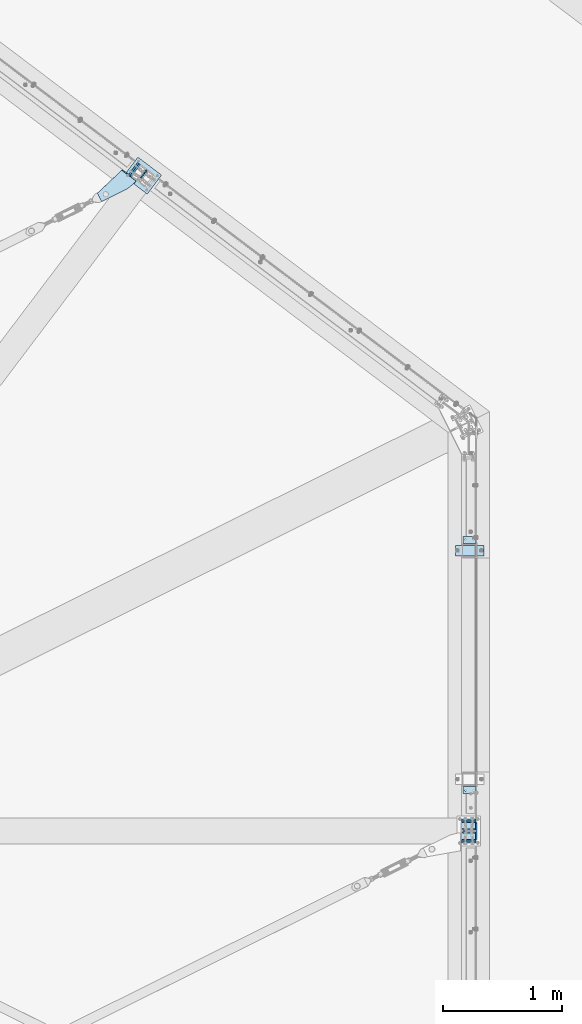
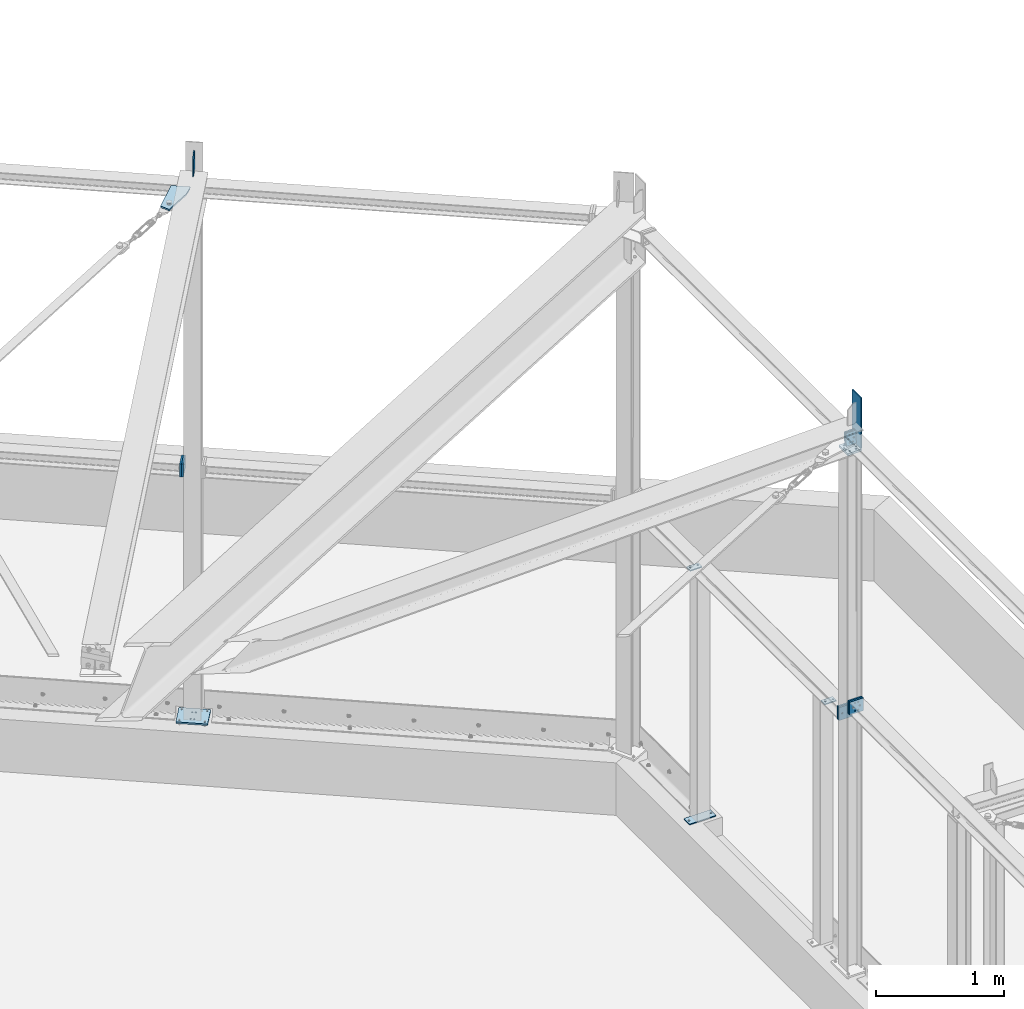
# One storey, part 65 of 476: 16 plates, 63 openings.
"""IFC2X3 building model written with IfcOpenShell, lengths in millimetres."""

from ifc_helpers import new_model, entity, si_unit, converted_unit, point, frame, frame_2d, origin, origin_with_axes, origin_2d_with_axis, place, context, project, spatial, polyline, circle_curve, line_curve, trimmed, segment, composite_curve, circle, outline, extrude, material, layer, layer_set, element, save


model = new_model("IFC2X3")

# Units and contexts
model_context = context("Model", 3, precision=1e-09, world=origin_with_axes())
ifc_project = project(units=[si_unit("LENGTHUNIT", "METRE", prefix="MILLI"), si_unit("AREAUNIT", "SQUARE_METRE"), si_unit("VOLUMEUNIT", "CUBIC_METRE"), converted_unit("PLANEANGLEUNIT", "DEGREE", entity("IfcPlaneAngleMeasure", 0.01745329), si_unit("PLANEANGLEUNIT", "RADIAN"), dimensions=[0, 0, 0, 0, 0, 0, 0])], contexts=[model_context])

# Site, building, storey
site_placement = place(None, origin_with_axes())
site = spatial("IfcSite", under=ifc_project, at=site_placement, Name="mKR Teilneubau & Sanierung BA1 - Ostfildern", CompositionType="ELEMENT")
building_placement = place(site_placement, origin_with_axes())
building = spatial("IfcBuilding", under=site, at=building_placement, Name="Struktur 1", CompositionType="ELEMENT")
storey_placement = place(building_placement, origin_with_axes())
storey = spatial("IfcBuildingStorey", under=building, at=storey_placement, Name="Default Storey", CompositionType="ELEMENT", Elevation=0.0)

# Plate, openings
ifc_material = material(Name="S235JR")
ifc_layer_1 = layer(ifc_material, 15.0)
ifc_layer_set_1 = layer_set([ifc_layer_1], Name="S235JR")
plate_1_placement = place(None, frame((19174.930539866, 2952.502361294, 5627.057962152), z_axis=(0.018098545, 0.02396011, -0.999549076), x_axis=(-0.602462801, -0.797581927, -0.030027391)))
plate_1 = element("IfcPlate", 1, at=plate_1_placement, inside=storey, material=ifc_layer_set_1, Name="-", ObjectType="-", context=model_context, shape_type="SweptSolid", body=[
    extrude(outline(polyline([(0.0, 0.0), (65.954896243, 0.0), (321.261469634, 127.050274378), (285.61998654, 198.672036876), (1.572e-05, 149.999963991), (0.0, 0.0)])), origin_with_axes(), (0.0, 0.0, 1.0), 15.0),
])
opening_1_placement = place(plate_1_placement, frame((0.0, 0.0, -0.01), z_axis=(0.0, 0.0, 1.0), x_axis=(1.0, 0.0, 0.0)))
element("IfcOpeningElement", 2, at=opening_1_placement, cuts=plate_1, ObjectType="Opening", context=model_context, shape_type="SweptSolid", body=[
    extrude(outline(composite_curve([segment(trimmed(line_curve((65.954896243, 0.0), (0.895271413, 0.445521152), 41.13722238), [point((65.954896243, 0.0))], [point((102.783875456, 18.327502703))], True, "CARTESIAN"), True, "CONTINUOUS"), segment(trimmed(circle_curve(frame_2d((24.817673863, 175.0), x_axis=(-1.0, 0.0)), 175.0), [point((102.783875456, 18.327502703))], [point((24.817673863, 0.0))], False, "CARTESIAN"), True, "CONTINUOUS"), segment(trimmed(line_curve((24.817673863, 0.0), (1.0, 0.0), 41.13722238), [point((24.817673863, 0.0))], [point((65.954896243, 0.0))], True, "CARTESIAN"), True, "CONTINUOUS")], self_intersect=False)), origin(), (0.0, 0.0, 1.0), 15.02),
])
opening_2_placement = place(plate_1_placement, frame((1.5863e-05, 151.364232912, 0.0), z_axis=(-1.05e-07, -1.0, 0.0), x_axis=(1.0, -1.05e-07, 0.0)))
element("IfcOpeningElement", 3, at=opening_2_placement, cuts=plate_1, ObjectType="Opening", context=model_context, shape_type="SweptSolid", body=[
    extrude(outline(polyline([(0.0, 0.0), (8.0, 0.0), (0.0, 8.0), (0.0, 0.0)])), origin(), (0.0, 0.0, 1.0), 151.385232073),
])
opening_3_placement = place(plate_1_placement, frame((249.724542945, 136.129920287, 15.499832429), z_axis=(-1.1668e-05, -5.806e-06, -1.0), x_axis=(0.89527149, 0.445520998, -1.3033e-05)))
element("IfcOpeningElement", 4, at=opening_3_placement, cuts=plate_1, ObjectType="Opening", context=model_context, shape_type="SweptSolid", body=[
    extrude(circle(Radius=14.501, at=origin_2d_with_axis()), origin(), (0.0, 0.0, 1.0), 16.000000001),
])

ifc_layer_2 = layer(ifc_material, 10.0)
ifc_layer_set_2 = layer_set([ifc_layer_2], Name="S235JR")
plate_2_placement = place(None, frame((19214.301719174, 2970.611345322, 5888.279672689), z_axis=(-0.797941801, 0.602734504, 0.0), x_axis=(0.602734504, 0.797941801, 0.0)))
plate_2 = element("IfcPlate", 5, at=plate_2_placement, inside=storey, material=ifc_layer_set_2, Name="-", ObjectType="-", context=model_context, shape_type="SweptSolid", body=[
    extrude(outline(polyline([(0.0, 0.0), (80.0, 0.0), (80.0, 197.595559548), (0.0, 200.0), (0.0, 0.0)])), origin_with_axes(), (0.0, 0.0, 1.0), 10.0),
])
opening_4_placement = place(plate_2_placement, frame((0.0, 0.0, -0.01), z_axis=(0.0, 0.0, 1.0), x_axis=(1.0, 0.0, 0.0)))
element("IfcOpeningElement", 6, at=opening_4_placement, cuts=plate_2, ObjectType="Opening", context=model_context, shape_type="SweptSolid", body=[
    extrude(outline(polyline([(0.0, 0.0), (50.0, 0.0), (0.0, 50.0), (0.0, 0.0)])), origin(), (0.0, 0.0, 1.0), 10.02),
])
opening_5_placement = place(plate_2_placement, frame((0.0, 0.0, -0.01), z_axis=(0.0, 0.0, 1.0), x_axis=(1.0, 0.0, 0.0)))
element("IfcOpeningElement", 7, at=opening_5_placement, cuts=plate_2, ObjectType="Opening", context=model_context, shape_type="SweptSolid", body=[
    extrude(outline(polyline([(80.0, 197.595559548), (60.009027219, 198.196398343), (80.0, 177.595559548), (80.0, 197.595559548)])), origin(), (0.0, 0.0, 1.0), 10.02),
])

plate_3_placement = place(None, frame((21916.108734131, -19.102759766, 2855.0), z_axis=(0.0, 0.0, 1.0), x_axis=(0.0, -1.0, 0.0)))
plate_3 = element("IfcPlate", 8, at=plate_3_placement, inside=storey, material=ifc_layer_set_2, Name="Endplate", ObjectType="Endplate", context=model_context, shape_type="SweptSolid", body=[
    extrude(outline(polyline([(20.0, 2.5), (80.0, 2.5), (80.0, 109.5), (20.0, 109.5), (20.0, 2.5)])), origin_with_axes(), (0.0, 0.0, -1.0), 10.0),
])
opening_6_placement = place(plate_3_placement, frame((38.499, 21.0, -10.5), z_axis=(0.0, 0.0, -1.0), x_axis=(-1.0, 0.0, 0.0)))
element("IfcOpeningElement", 9, at=opening_6_placement, cuts=plate_3, ObjectType="Opening", context=model_context, shape_type="SweptSolid", body=[
    extrude(circle(Radius=6.501, at=frame_2d((-6.501, 0.0), x_axis=(1.0, 0.0))), origin(), (0.0, 0.0, -1.0), 11.0),
])
opening_7_placement = place(plate_3_placement, frame((38.499, 91.0, -10.5), z_axis=(0.0, 0.0, -1.0), x_axis=(-1.0, 0.0, 0.0)))
element("IfcOpeningElement", 10, at=opening_7_placement, cuts=plate_3, ObjectType="Opening", context=model_context, shape_type="SweptSolid", body=[
    extrude(circle(Radius=6.501, at=frame_2d((-6.501, 0.0), x_axis=(1.0, 0.0))), origin(), (0.0, 0.0, -1.0), 11.0),
])

plate_4_placement = place(None, frame((19185.00758697, 3147.513425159, 540.0), z_axis=(0.0, 0.0, -1.0), x_axis=(0.797941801, -0.602734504, 0.0)))
plate_4 = element("IfcPlate", 11, at=plate_4_placement, inside=storey, material=ifc_layer_set_1, Name="Baseplate", ObjectType="Baseplate", context=model_context, shape_type="SweptSolid", body=[
    extrude(outline(polyline([(0.0, 0.0), (250.0, 0.0), (250.0, 200.0), (0.0, 200.0), (0.0, 0.0)])), origin_with_axes(), (0.0, 0.0, 1.0), 15.0),
])
opening_8_placement = place(plate_4_placement, frame((139.75, 146.0, 15.5), z_axis=(0.0, 0.0, -1.0), x_axis=(0.0, 1.0, 0.0)))
element("IfcOpeningElement", 12, at=opening_8_placement, cuts=plate_4, ObjectType="Opening", context=model_context, shape_type="SweptSolid", body=[
    extrude(circle(Radius=6.001, at=origin_2d_with_axis()), origin(), (0.0, 0.0, 1.0), 16.0),
])
opening_9_placement = place(plate_4_placement, frame((139.75, 54.0, 15.5), z_axis=(0.0, 0.0, -1.0), x_axis=(0.0, 1.0, 0.0)))
element("IfcOpeningElement", 13, at=opening_9_placement, cuts=plate_4, ObjectType="Opening", context=model_context, shape_type="SweptSolid", body=[
    extrude(circle(Radius=6.001, at=origin_2d_with_axis()), origin(), (0.0, 0.0, 1.0), 16.0),
])
opening_10_placement = place(plate_4_placement, frame((110.25, 54.0, 15.5), z_axis=(0.0, 0.0, -1.0), x_axis=(0.0, 1.0, 0.0)))
element("IfcOpeningElement", 14, at=opening_10_placement, cuts=plate_4, ObjectType="Opening", context=model_context, shape_type="SweptSolid", body=[
    extrude(circle(Radius=6.001, at=origin_2d_with_axis()), origin(), (0.0, 0.0, 1.0), 16.0),
])
opening_11_placement = place(plate_4_placement, frame((110.25, 146.0, 15.5), z_axis=(0.0, 0.0, -1.0), x_axis=(0.0, 1.0, 0.0)))
element("IfcOpeningElement", 15, at=opening_11_placement, cuts=plate_4, ObjectType="Opening", context=model_context, shape_type="SweptSolid", body=[
    extrude(circle(Radius=6.001, at=origin_2d_with_axis()), origin(), (0.0, 0.0, 1.0), 16.0),
])
opening_12_placement = place(plate_4_placement, frame((125.0, 100.0, 15.5), z_axis=(0.0, 0.0, -1.0), x_axis=(1.0, 0.0, 0.0)))
element("IfcOpeningElement", 16, at=opening_12_placement, cuts=plate_4, ObjectType="Opening", context=model_context, shape_type="SweptSolid", body=[
    extrude(circle(Radius=6.001, at=frame_2d((100.0, 75.0), x_axis=(1.0, 0.0))), origin(), (0.0, 0.0, 1.0), 16.0),
])
opening_13_placement = place(plate_4_placement, frame((125.0, 100.0, 15.5), z_axis=(0.0, 0.0, -1.0), x_axis=(1.0, 0.0, 0.0)))
element("IfcOpeningElement", 17, at=opening_13_placement, cuts=plate_4, ObjectType="Opening", context=model_context, shape_type="SweptSolid", body=[
    extrude(circle(Radius=6.001, at=frame_2d((-100.0, 75.0), x_axis=(1.0, 0.0))), origin(), (0.0, 0.0, 1.0), 16.0),
])
opening_14_placement = place(plate_4_placement, frame((125.0, 100.0, 15.5), z_axis=(0.0, 0.0, -1.0), x_axis=(1.0, 0.0, 0.0)))
element("IfcOpeningElement", 18, at=opening_14_placement, cuts=plate_4, ObjectType="Opening", context=model_context, shape_type="SweptSolid", body=[
    extrude(circle(Radius=6.001, at=frame_2d((100.0, -75.0), x_axis=(1.0, 0.0))), origin(), (0.0, 0.0, 1.0), 16.0),
])
opening_15_placement = place(plate_4_placement, frame((125.0, 100.0, 15.5), z_axis=(0.0, 0.0, -1.0), x_axis=(1.0, 0.0, 0.0)))
element("IfcOpeningElement", 19, at=opening_15_placement, cuts=plate_4, ObjectType="Opening", context=model_context, shape_type="SweptSolid", body=[
    extrude(circle(Radius=6.001, at=frame_2d((-100.0, -75.0), x_axis=(1.0, 0.0))), origin(), (0.0, 0.0, 1.0), 16.0),
])

plate_5_placement = place(None, frame((22092.108734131, -114.102759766, 525.0), z_axis=(0.0, 0.0, -1.0), x_axis=(0.0, -1.0, 0.0)))
plate_5 = element("IfcPlate", 20, at=plate_5_placement, inside=storey, material=ifc_layer_set_2, Name="Baseplate", ObjectType="Baseplate", context=model_context, shape_type="SweptSolid", body=[
    extrude(outline(polyline([(0.0, 0.0), (90.0, 0.0), (90.0, 240.0), (0.0, 240.0), (0.0, 0.0)])), origin_with_axes(), (0.0, 0.0, 1.0), 10.0),
])
opening_16_placement = place(plate_5_placement, frame((45.0, 120.0, 10.5), z_axis=(0.0, 0.0, -1.0), x_axis=(1.0, 0.0, 0.0)))
element("IfcOpeningElement", 21, at=opening_16_placement, cuts=plate_5, ObjectType="Opening", context=model_context, shape_type="SweptSolid", body=[
    extrude(circle(Radius=7.001, at=frame_2d((0.0, 100.0), x_axis=(1.0, 0.0))), origin(), (0.0, 0.0, 1.0), 11.0),
])
opening_17_placement = place(plate_5_placement, frame((45.0, 120.0, 10.5), z_axis=(0.0, 0.0, -1.0), x_axis=(1.0, 0.0, 0.0)))
element("IfcOpeningElement", 22, at=opening_17_placement, cuts=plate_5, ObjectType="Opening", context=model_context, shape_type="SweptSolid", body=[
    extrude(circle(Radius=7.001, at=frame_2d((0.0, -100.0), x_axis=(1.0, 0.0))), origin(), (0.0, 0.0, 1.0), 11.0),
])

plate_6_placement = place(None, frame((19144.681831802, 3052.649757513, 2912.000000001), z_axis=(0.797941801, -0.602734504, 0.0), x_axis=(0.0, 0.0, -1.0)))
plate_6 = element("IfcPlate", 23, at=plate_6_placement, inside=storey, material=ifc_layer_set_1, Name="Endplate#1", ObjectType="Endplate#1", context=model_context, shape_type="SweptSolid", body=[
    extrude(outline(polyline([(-62.0, -62.0), (62.0, -62.0), (62.0, 62.0), (-62.0, 62.0), (-62.0, -62.0)])), origin_with_axes(), (0.0, 0.0, 1.0), 15.0),
])
opening_18_placement = place(plate_6_placement, frame((37.0, -14.5, 15.5), z_axis=(0.0, 0.0, -1.0), x_axis=(1.0, 0.0, 0.0)))
element("IfcOpeningElement", 24, at=opening_18_placement, cuts=plate_6, ObjectType="Opening", context=model_context, shape_type="SweptSolid", body=[
    extrude(circle(Radius=6.001, at=origin_2d_with_axis()), origin(), (0.0, 0.0, 1.0), 16.0),
])
opening_19_placement = place(plate_6_placement, frame((-37.0, -14.5, 15.5), z_axis=(0.0, 0.0, -1.0), x_axis=(1.0, 0.0, 0.0)))
element("IfcOpeningElement", 25, at=opening_19_placement, cuts=plate_6, ObjectType="Opening", context=model_context, shape_type="SweptSolid", body=[
    extrude(circle(Radius=6.001, at=origin_2d_with_axis()), origin(), (0.0, 0.0, 1.0), 16.0),
])
opening_20_placement = place(plate_6_placement, frame((-37.0, 14.5, 15.5), z_axis=(0.0, 0.0, -1.0), x_axis=(1.0, 0.0, 0.0)))
element("IfcOpeningElement", 26, at=opening_20_placement, cuts=plate_6, ObjectType="Opening", context=model_context, shape_type="SweptSolid", body=[
    extrude(circle(Radius=6.001, at=origin_2d_with_axis()), origin(), (0.0, 0.0, 1.0), 16.0),
])
opening_21_placement = place(plate_6_placement, frame((37.0, 14.5, 15.5), z_axis=(0.0, 0.0, -1.0), x_axis=(1.0, 0.0, 0.0)))
element("IfcOpeningElement", 27, at=opening_21_placement, cuts=plate_6, ObjectType="Opening", context=model_context, shape_type="SweptSolid", body=[
    extrude(circle(Radius=6.001, at=origin_2d_with_axis()), origin(), (0.0, 0.0, 1.0), 16.0),
])
opening_22_placement = place(plate_6_placement, frame((0.0, -30.0, 15.5), z_axis=(0.0, 0.0, -1.0), x_axis=(0.0, -1.0, 0.0)))
element("IfcOpeningElement", 28, at=opening_22_placement, cuts=plate_6, ObjectType="Opening", context=model_context, shape_type="SweptSolid", body=[
    extrude(circle(Radius=7.001, at=origin_2d_with_axis()), origin(), (0.0, 0.0, 1.0), 16.0),
])
opening_23_placement = place(plate_6_placement, frame((0.0, 30.0, 15.5), z_axis=(0.0, 0.0, -1.0), x_axis=(-1.0, 0.0, 0.0)))
element("IfcOpeningElement", 29, at=opening_23_placement, cuts=plate_6, ObjectType="Opening", context=model_context, shape_type="SweptSolid", body=[
    extrude(circle(Radius=7.001, at=origin_2d_with_axis()), origin(), (0.0, 0.0, 1.0), 16.0),
])

plate_7_placement = place(None, frame((19168.62093558, 3034.568847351, 2912.000000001), z_axis=(-0.797941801, 0.602734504, 0.0), x_axis=(0.602734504, 0.797941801, 0.0)))
plate_7 = element("IfcPlate", 30, at=plate_7_placement, inside=storey, material=ifc_layer_set_1, Name="T-plate", ObjectType="T-plate", context=model_context, shape_type="SweptSolid", body=[
    extrude(outline(polyline([(-62.0, -62.0), (62.0, -62.0), (62.0, 62.0), (-62.0, 62.0), (-62.0, -62.0)])), origin_with_axes(), (0.0, 0.0, 1.0), 15.0),
])
opening_24_placement = place(plate_7_placement, frame((-30.001409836, 0.0, -0.5), z_axis=(0.0, 0.0, 1.0), x_axis=(-1.0, 0.0, 0.0)))
element("IfcOpeningElement", 31, at=opening_24_placement, cuts=plate_7, ObjectType="Opening", context=model_context, shape_type="SweptSolid", body=[
    extrude(circle(Radius=7.001, at=origin_2d_with_axis()), origin(), (0.0, 0.0, 1.0), 16.0),
])
opening_25_placement = place(plate_7_placement, frame((29.998590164, 0.0, -0.5), z_axis=(0.0, 0.0, 1.0), x_axis=(0.0, -1.0, 0.0)))
element("IfcOpeningElement", 32, at=opening_25_placement, cuts=plate_7, ObjectType="Opening", context=model_context, shape_type="SweptSolid", body=[
    extrude(circle(Radius=7.001, at=origin_2d_with_axis()), origin(), (0.0, 0.0, 1.0), 16.0),
])

plate_8_placement = place(None, frame((21965.608780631, -2413.420954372, 2912.000017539), z_axis=(0.0, -1.0, 0.0), x_axis=(0.0, 0.0, -1.0)))
plate_8 = element("IfcPlate", 33, at=plate_8_placement, inside=storey, material=ifc_layer_set_1, Name="Endplate#1", ObjectType="Endplate#1", context=model_context, shape_type="SweptSolid", body=[
    extrude(outline(polyline([(-62.0, -62.0), (62.0, -62.0), (62.0, 62.0), (-62.0, 62.0), (-62.0, -62.0)])), origin_with_axes(), (0.0, 0.0, 1.0), 15.0),
])
opening_26_placement = place(plate_8_placement, frame((37.0, -14.5, 15.5), z_axis=(0.0, 0.0, -1.0), x_axis=(1.0, 0.0, 0.0)))
element("IfcOpeningElement", 34, at=opening_26_placement, cuts=plate_8, ObjectType="Opening", context=model_context, shape_type="SweptSolid", body=[
    extrude(circle(Radius=6.001, at=origin_2d_with_axis()), origin(), (0.0, 0.0, 1.0), 16.0),
])
opening_27_placement = place(plate_8_placement, frame((-37.0, -14.5, 15.5), z_axis=(0.0, 0.0, -1.0), x_axis=(1.0, 0.0, 0.0)))
element("IfcOpeningElement", 35, at=opening_27_placement, cuts=plate_8, ObjectType="Opening", context=model_context, shape_type="SweptSolid", body=[
    extrude(circle(Radius=6.001, at=origin_2d_with_axis()), origin(), (0.0, 0.0, 1.0), 16.0),
])
opening_28_placement = place(plate_8_placement, frame((-37.0, 14.5, 15.5), z_axis=(0.0, 0.0, -1.0), x_axis=(1.0, 0.0, 0.0)))
element("IfcOpeningElement", 36, at=opening_28_placement, cuts=plate_8, ObjectType="Opening", context=model_context, shape_type="SweptSolid", body=[
    extrude(circle(Radius=6.001, at=origin_2d_with_axis()), origin(), (0.0, 0.0, 1.0), 16.0),
])
opening_29_placement = place(plate_8_placement, frame((37.0, 14.5, 15.5), z_axis=(0.0, 0.0, -1.0), x_axis=(1.0, 0.0, 0.0)))
element("IfcOpeningElement", 37, at=opening_29_placement, cuts=plate_8, ObjectType="Opening", context=model_context, shape_type="SweptSolid", body=[
    extrude(circle(Radius=6.001, at=origin_2d_with_axis()), origin(), (0.0, 0.0, 1.0), 16.0),
])
opening_30_placement = place(plate_8_placement, frame((0.0, 30.0, 15.5), z_axis=(0.0, 0.0, -1.0), x_axis=(-1.0, 0.0, 0.0)))
element("IfcOpeningElement", 38, at=opening_30_placement, cuts=plate_8, ObjectType="Opening", context=model_context, shape_type="SweptSolid", body=[
    extrude(circle(Radius=7.001, at=origin_2d_with_axis()), origin(), (0.0, 0.0, 1.0), 16.0),
])
opening_31_placement = place(plate_8_placement, frame((0.0, -30.0, 15.5), z_axis=(0.0, 0.0, -1.0), x_axis=(0.0, -1.0, 0.0)))
element("IfcOpeningElement", 39, at=opening_31_placement, cuts=plate_8, ObjectType="Opening", context=model_context, shape_type="SweptSolid", body=[
    extrude(circle(Radius=7.001, at=origin_2d_with_axis()), origin(), (0.0, 0.0, 1.0), 16.0),
])

plate_9_placement = place(None, frame((21965.608764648, -2443.420954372, 2912.000017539), z_axis=(0.0, 1.0, 0.0), x_axis=(1.0, 0.0, 0.0)))
plate_9 = element("IfcPlate", 40, at=plate_9_placement, inside=storey, material=ifc_layer_set_1, Name="T-plate", ObjectType="T-plate", context=model_context, shape_type="SweptSolid", body=[
    extrude(outline(polyline([(-62.0, -62.0), (62.0, -62.0), (62.0, 62.0), (-62.0, 62.0), (-62.0, -62.0)])), origin_with_axes(), (0.0, 0.0, 1.0), 15.0),
])
opening_32_placement = place(plate_9_placement, frame((-29.999984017, 0.0, -0.5), z_axis=(0.0, 0.0, 1.0), x_axis=(-1.0, 0.0, 0.0)))
element("IfcOpeningElement", 41, at=opening_32_placement, cuts=plate_9, ObjectType="Opening", context=model_context, shape_type="SweptSolid", body=[
    extrude(circle(Radius=7.001, at=origin_2d_with_axis()), origin(), (0.0, 0.0, 1.0), 16.0),
])
opening_33_placement = place(plate_9_placement, frame((30.000015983, 0.0, -0.5), z_axis=(0.0, 0.0, 1.0), x_axis=(0.0, -1.0, 0.0)))
element("IfcOpeningElement", 42, at=opening_33_placement, cuts=plate_9, ObjectType="Opening", context=model_context, shape_type="SweptSolid", body=[
    extrude(circle(Radius=7.001, at=origin_2d_with_axis()), origin(), (0.0, 0.0, 1.0), 16.0),
])

plate_10_placement = place(None, frame((21965.608780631, -2613.420954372, 3068.000017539), z_axis=(0.0, 1.0, 0.0), x_axis=(0.0, 0.0, -1.0)))
plate_10 = element("IfcPlate", 43, at=plate_10_placement, inside=storey, material=ifc_layer_set_1, Name="Endplate#1", ObjectType="Endplate#1", context=model_context, shape_type="SweptSolid", body=[
    extrude(outline(polyline([(-62.0, -62.0), (62.0, -62.0), (62.0, 62.0), (-62.0, 62.0), (-62.0, -62.0)])), origin_with_axes(), (0.0, 0.0, 1.0), 15.0),
])
opening_34_placement = place(plate_10_placement, frame((37.0, 14.5, 15.5), z_axis=(0.0, 0.0, -1.0), x_axis=(-1.0, 0.0, 0.0)))
element("IfcOpeningElement", 44, at=opening_34_placement, cuts=plate_10, ObjectType="Opening", context=model_context, shape_type="SweptSolid", body=[
    extrude(circle(Radius=6.001, at=origin_2d_with_axis()), origin(), (0.0, 0.0, 1.0), 16.0),
])
opening_35_placement = place(plate_10_placement, frame((-37.0, 14.5, 15.5), z_axis=(0.0, 0.0, -1.0), x_axis=(-1.0, 0.0, 0.0)))
element("IfcOpeningElement", 45, at=opening_35_placement, cuts=plate_10, ObjectType="Opening", context=model_context, shape_type="SweptSolid", body=[
    extrude(circle(Radius=6.001, at=origin_2d_with_axis()), origin(), (0.0, 0.0, 1.0), 16.0),
])
opening_36_placement = place(plate_10_placement, frame((-37.0, -14.5, 15.5), z_axis=(0.0, 0.0, -1.0), x_axis=(-1.0, 0.0, 0.0)))
element("IfcOpeningElement", 46, at=opening_36_placement, cuts=plate_10, ObjectType="Opening", context=model_context, shape_type="SweptSolid", body=[
    extrude(circle(Radius=6.001, at=origin_2d_with_axis()), origin(), (0.0, 0.0, 1.0), 16.0),
])
opening_37_placement = place(plate_10_placement, frame((37.0, -14.5, 15.5), z_axis=(0.0, 0.0, -1.0), x_axis=(-1.0, 0.0, 0.0)))
element("IfcOpeningElement", 47, at=opening_37_placement, cuts=plate_10, ObjectType="Opening", context=model_context, shape_type="SweptSolid", body=[
    extrude(circle(Radius=6.001, at=origin_2d_with_axis()), origin(), (0.0, 0.0, 1.0), 16.0),
])
opening_38_placement = place(plate_10_placement, frame((0.0, 30.0, 15.5), z_axis=(0.0, 0.0, -1.0), x_axis=(-1.0, 0.0, 0.0)))
element("IfcOpeningElement", 48, at=opening_38_placement, cuts=plate_10, ObjectType="Opening", context=model_context, shape_type="SweptSolid", body=[
    extrude(circle(Radius=7.001, at=origin_2d_with_axis()), origin(), (0.0, 0.0, 1.0), 16.0),
])
opening_39_placement = place(plate_10_placement, frame((0.0, -30.0, 15.5), z_axis=(0.0, 0.0, -1.0), x_axis=(0.0, -1.0, 0.0)))
element("IfcOpeningElement", 49, at=opening_39_placement, cuts=plate_10, ObjectType="Opening", context=model_context, shape_type="SweptSolid", body=[
    extrude(circle(Radius=7.001, at=origin_2d_with_axis()), origin(), (0.0, 0.0, 1.0), 16.0),
])

plate_11_placement = place(None, frame((21965.608764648, -2583.420954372, 3068.000017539), z_axis=(0.0, -1.0, 0.0), x_axis=(-1.0, 0.0, 0.0)))
plate_11 = element("IfcPlate", 50, at=plate_11_placement, inside=storey, material=ifc_layer_set_1, Name="T-plate", ObjectType="T-plate", context=model_context, shape_type="SweptSolid", body=[
    extrude(outline(polyline([(-62.0, -62.0), (62.0, -62.0), (62.0, 62.0), (-62.0, 62.0), (-62.0, -62.0)])), origin_with_axes(), (0.0, 0.0, 1.0), 15.0),
])
opening_40_placement = place(plate_11_placement, frame((29.999984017, 0.0, -0.5), z_axis=(0.0, 0.0, 1.0), x_axis=(0.0, -1.0, 0.0)))
element("IfcOpeningElement", 51, at=opening_40_placement, cuts=plate_11, ObjectType="Opening", context=model_context, shape_type="SweptSolid", body=[
    extrude(circle(Radius=7.001, at=origin_2d_with_axis()), origin(), (0.0, 0.0, 1.0), 16.0),
])
opening_41_placement = place(plate_11_placement, frame((-30.000015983, 0.0, -0.5), z_axis=(0.0, 0.0, 1.0), x_axis=(-1.0, 0.0, 0.0)))
element("IfcOpeningElement", 52, at=opening_41_placement, cuts=plate_11, ObjectType="Opening", context=model_context, shape_type="SweptSolid", body=[
    extrude(circle(Radius=7.001, at=origin_2d_with_axis()), origin(), (0.0, 0.0, 1.0), 16.0),
])

ifc_layer_3 = layer(ifc_material, 12.0)
ifc_layer_set_3 = layer_set([ifc_layer_3], Name="S235JR")
plate_12_placement = place(None, frame((22008.725869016, -2516.920954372, 5635.31111627), z_axis=(0.0, -1.0, 0.0), x_axis=(-0.999548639, 0.0, -0.030041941)))
plate_12 = element("IfcPlate", 53, at=plate_12_placement, inside=storey, material=ifc_layer_set_3, Name="Endplate", ObjectType="Endplate", context=model_context, shape_type="SweptSolid", body=[
    extrude(outline(polyline([(0.0, 0.0), (90.0, 0.0), (90.0, 124.0), (0.0, 124.0), (0.0, 0.0)])), origin_with_axes(), (0.0, 0.0, 1.0), 12.0),
])
opening_42_placement = place(plate_12_placement, frame((59.5, 99.0, -0.5), z_axis=(0.0, 0.0, 1.0), x_axis=(0.0, -1.0, 0.0)))
element("IfcOpeningElement", 54, at=opening_42_placement, cuts=plate_12, ObjectType="Opening", context=model_context, shape_type="SweptSolid", body=[
    extrude(circle(Radius=6.001, at=origin_2d_with_axis()), origin(), (0.0, 0.0, 1.0), 13.0),
])
opening_43_placement = place(plate_12_placement, frame((59.5, 25.0, -0.5), z_axis=(0.0, 0.0, 1.0), x_axis=(0.0, -1.0, 0.0)))
element("IfcOpeningElement", 55, at=opening_43_placement, cuts=plate_12, ObjectType="Opening", context=model_context, shape_type="SweptSolid", body=[
    extrude(circle(Radius=6.001, at=origin_2d_with_axis()), origin(), (0.0, 0.0, 1.0), 13.0),
])
opening_44_placement = place(plate_12_placement, frame((30.5, 25.0, -0.5), z_axis=(0.0, 0.0, 1.0), x_axis=(0.0, -1.0, 0.0)))
element("IfcOpeningElement", 56, at=opening_44_placement, cuts=plate_12, ObjectType="Opening", context=model_context, shape_type="SweptSolid", body=[
    extrude(circle(Radius=6.001, at=origin_2d_with_axis()), origin(), (0.0, 0.0, 1.0), 13.0),
])
opening_45_placement = place(plate_12_placement, frame((30.5, 99.0, -0.5), z_axis=(0.0, 0.0, 1.0), x_axis=(0.0, -1.0, 0.0)))
element("IfcOpeningElement", 57, at=opening_45_placement, cuts=plate_12, ObjectType="Opening", context=model_context, shape_type="SweptSolid", body=[
    extrude(circle(Radius=6.001, at=origin_2d_with_axis()), origin(), (0.0, 0.0, 1.0), 13.0),
])
opening_46_placement = place(plate_12_placement, frame((70.0, 62.0, -0.5), z_axis=(0.0, 0.0, 1.0), x_axis=(0.0, -1.0, 0.0)))
element("IfcOpeningElement", 58, at=opening_46_placement, cuts=plate_12, ObjectType="Opening", context=model_context, shape_type="SweptSolid", body=[
    extrude(circle(Radius=7.001, at=origin_2d_with_axis()), origin(), (0.0, 0.0, 1.0), 13.0),
])
opening_47_placement = place(plate_12_placement, frame((20.0, 62.0, -0.5), z_axis=(0.0, 0.0, 1.0), x_axis=(0.0, -1.0, 0.0)))
element("IfcOpeningElement", 59, at=opening_47_placement, cuts=plate_12, ObjectType="Opening", context=model_context, shape_type="SweptSolid", body=[
    extrude(circle(Radius=7.001, at=origin_2d_with_axis()), origin(), (0.0, 0.0, 1.0), 13.0),
])

plate_13_placement = place(None, frame((21918.766491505, -2509.920954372, 5632.607341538), z_axis=(0.0, 1.0, 0.0), x_axis=(0.999548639, 0.0, 0.030041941)))
plate_13 = element("IfcPlate", 60, at=plate_13_placement, inside=storey, material=ifc_layer_set_3, Name="Endplate", ObjectType="Endplate", context=model_context, shape_type="SweptSolid", body=[
    extrude(outline(polyline([(0.0, 0.0), (90.0, 0.0), (90.0, 124.0), (0.0, 124.0), (0.0, 0.0)])), origin_with_axes(), (0.0, 0.0, 1.0), 12.0),
])
opening_48_placement = place(plate_13_placement, frame((30.5, 99.0, -0.5), z_axis=(0.0, 0.0, 1.0), x_axis=(0.0, 1.0, 0.0)))
element("IfcOpeningElement", 61, at=opening_48_placement, cuts=plate_13, ObjectType="Opening", context=model_context, shape_type="SweptSolid", body=[
    extrude(circle(Radius=6.001, at=origin_2d_with_axis()), origin(), (0.0, 0.0, 1.0), 13.0),
])
opening_49_placement = place(plate_13_placement, frame((30.5, 25.0, -0.5), z_axis=(0.0, 0.0, 1.0), x_axis=(0.0, 1.0, 0.0)))
element("IfcOpeningElement", 62, at=opening_49_placement, cuts=plate_13, ObjectType="Opening", context=model_context, shape_type="SweptSolid", body=[
    extrude(circle(Radius=6.001, at=origin_2d_with_axis()), origin(), (0.0, 0.0, 1.0), 13.0),
])
opening_50_placement = place(plate_13_placement, frame((59.5, 25.0, -0.5), z_axis=(0.0, 0.0, 1.0), x_axis=(0.0, 1.0, 0.0)))
element("IfcOpeningElement", 63, at=opening_50_placement, cuts=plate_13, ObjectType="Opening", context=model_context, shape_type="SweptSolid", body=[
    extrude(circle(Radius=6.001, at=origin_2d_with_axis()), origin(), (0.0, 0.0, 1.0), 13.0),
])
opening_51_placement = place(plate_13_placement, frame((59.5, 99.0, -0.5), z_axis=(0.0, 0.0, 1.0), x_axis=(0.0, 1.0, 0.0)))
element("IfcOpeningElement", 64, at=opening_51_placement, cuts=plate_13, ObjectType="Opening", context=model_context, shape_type="SweptSolid", body=[
    extrude(circle(Radius=6.001, at=origin_2d_with_axis()), origin(), (0.0, 0.0, 1.0), 13.0),
])
opening_52_placement = place(plate_13_placement, frame((20.0, 62.0, 12.5), z_axis=(0.0, 0.0, -1.0), x_axis=(0.0, -1.0, 0.0)))
element("IfcOpeningElement", 65, at=opening_52_placement, cuts=plate_13, ObjectType="Opening", context=model_context, shape_type="SweptSolid", body=[
    extrude(circle(Radius=7.001, at=origin_2d_with_axis()), origin(), (0.0, 0.0, 1.0), 13.0),
])
opening_53_placement = place(plate_13_placement, frame((70.0, 62.0, 12.5), z_axis=(0.0, 0.0, -1.0), x_axis=(0.0, -1.0, 0.0)))
element("IfcOpeningElement", 66, at=opening_53_placement, cuts=plate_13, ObjectType="Opening", context=model_context, shape_type="SweptSolid", body=[
    extrude(circle(Radius=7.001, at=origin_2d_with_axis()), origin(), (0.0, 0.0, 1.0), 13.0),
])

# Plate
plate_14_placement = place(None, frame((22022.108764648, -2583.420954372, 5485.616241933), z_axis=(1.0, 0.0, 0.0), x_axis=(0.0, 1.0, 0.0)))
element("IfcPlate", 67, at=plate_14_placement, inside=storey, material=ifc_layer_set_2, Name="Coverplate", ObjectType="Coverplate", context=model_context, shape_type="SweptSolid", body=[
    extrude(outline(polyline([(0.0, 0.0), (140.0, 0.0), (140.0, 480.094828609), (0.0, 480.094828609), (0.0, 0.0)])), origin_with_axes(), (0.0, 0.0, 1.0), 10.0),
])

# Plate, openings
ifc_layer_4 = layer(ifc_material, 20.0)
ifc_layer_set_4 = layer_set([ifc_layer_4], Name="S235JR")
plate_15_placement = place(None, frame((22027.111021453, -2583.420954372, 5460.757556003), z_axis=(-0.030041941, 0.0, 0.999548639), x_axis=(0.0, 1.0, 0.0)))
plate_15 = element("IfcPlate", 68, at=plate_15_placement, inside=storey, material=ifc_layer_set_4, Name="Endplate", ObjectType="Endplate", context=model_context, shape_type="SweptSolid", body=[
    extrude(outline(polyline([(0.0, 0.0), (140.0, 0.0), (140.0, 123.060058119), (0.0, 123.060058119), (0.0, 0.0)])), origin_with_axes(), (0.0, 0.0, 1.0), 20.0),
])
opening_54_placement = place(plate_15_placement, frame((84.75, 107.556219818, 20.5), z_axis=(0.0, 0.0, -1.0), x_axis=(0.0, 1.0, 0.0)))
element("IfcOpeningElement", 69, at=opening_54_placement, cuts=plate_15, ObjectType="Opening", context=model_context, shape_type="SweptSolid", body=[
    extrude(circle(Radius=6.001, at=origin_2d_with_axis()), origin(), (0.0, 0.0, 1.0), 21.0),
])
opening_55_placement = place(plate_15_placement, frame((84.75, 15.503838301, 20.5), z_axis=(0.0, 0.0, -1.0), x_axis=(0.0, 1.0, 0.0)))
element("IfcOpeningElement", 70, at=opening_55_placement, cuts=plate_15, ObjectType="Opening", context=model_context, shape_type="SweptSolid", body=[
    extrude(circle(Radius=6.001, at=origin_2d_with_axis()), origin(), (0.0, 0.0, 1.0), 21.0),
])
opening_56_placement = place(plate_15_placement, frame((55.25, 15.503838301, 20.5), z_axis=(0.0, 0.0, -1.0), x_axis=(0.0, 1.0, 0.0)))
element("IfcOpeningElement", 71, at=opening_56_placement, cuts=plate_15, ObjectType="Opening", context=model_context, shape_type="SweptSolid", body=[
    extrude(circle(Radius=6.001, at=origin_2d_with_axis()), origin(), (0.0, 0.0, 1.0), 21.0),
])
opening_57_placement = place(plate_15_placement, frame((55.25, 107.556219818, 20.5), z_axis=(0.0, 0.0, -1.0), x_axis=(0.0, 1.0, 0.0)))
element("IfcOpeningElement", 72, at=opening_57_placement, cuts=plate_15, ObjectType="Opening", context=model_context, shape_type="SweptSolid", body=[
    extrude(circle(Radius=6.001, at=origin_2d_with_axis()), origin(), (0.0, 0.0, 1.0), 21.0),
])
opening_58_placement = place(plate_15_placement, frame((17.999, 34.03, -0.5), z_axis=(0.0, 0.0, -1.0), x_axis=(-1.0, 0.0, 0.0)))
element("IfcOpeningElement", 73, at=opening_58_placement, cuts=plate_15, ObjectType="Opening", context=model_context, shape_type="SweptSolid", body=[
    extrude(circle(Radius=7.001, at=frame_2d((-7.001, 0.0), x_axis=(1.0, 0.0))), origin(), (0.0, 0.0, -1.0), 21.0),
])
opening_59_placement = place(plate_15_placement, frame((107.999, 89.03, -0.5), z_axis=(0.0, 0.0, -1.0), x_axis=(-1.0, 0.0, 0.0)))
element("IfcOpeningElement", 74, at=opening_59_placement, cuts=plate_15, ObjectType="Opening", context=model_context, shape_type="SweptSolid", body=[
    extrude(circle(Radius=7.001, at=frame_2d((-7.001, 0.0), x_axis=(1.0, 0.0))), origin(), (0.0, 0.0, -1.0), 21.0),
])
opening_60_placement = place(plate_15_placement, frame((17.999, 89.03, -0.5), z_axis=(0.0, 0.0, -1.0), x_axis=(-1.0, 0.0, 0.0)))
element("IfcOpeningElement", 75, at=opening_60_placement, cuts=plate_15, ObjectType="Opening", context=model_context, shape_type="SweptSolid", body=[
    extrude(circle(Radius=7.001, at=frame_2d((-7.001, 0.0), x_axis=(1.0, 0.0))), origin(), (0.0, 0.0, -1.0), 21.0),
])
opening_61_placement = place(plate_15_placement, frame((107.999, 34.03, -0.5), z_axis=(0.0, 0.0, -1.0), x_axis=(-1.0, 0.0, 0.0)))
element("IfcOpeningElement", 76, at=opening_61_placement, cuts=plate_15, ObjectType="Opening", context=model_context, shape_type="SweptSolid", body=[
    extrude(circle(Radius=7.001, at=frame_2d((-7.001, 0.0), x_axis=(1.0, 0.0))), origin(), (0.0, 0.0, -1.0), 21.0),
])

plate_16_placement = place(None, frame((21916.108734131, -2219.104698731, 2855.0), z_axis=(0.0, 0.0, -1.0), x_axis=(0.0, 1.0, 0.0)))
plate_16 = element("IfcPlate", 77, at=plate_16_placement, inside=storey, material=ifc_layer_set_2, Name="Endplate", ObjectType="Endplate", context=model_context, shape_type="SweptSolid", body=[
    extrude(outline(polyline([(20.0, 2.5), (80.0, 2.5), (80.0, 109.5), (20.0, 109.5), (20.0, 2.5)])), origin_with_axes(), (0.0, 0.0, 1.0), 10.0),
])
opening_62_placement = place(plate_16_placement, frame((45.0, 56.0, 10.5), z_axis=(0.0, 0.0, -1.0), x_axis=(1.0, 0.0, 0.0)))
element("IfcOpeningElement", 78, at=opening_62_placement, cuts=plate_16, ObjectType="Opening", context=model_context, shape_type="SweptSolid", body=[
    extrude(circle(Radius=6.501, at=frame_2d((0.0, 35.0), x_axis=(1.0, 0.0))), origin(), (0.0, 0.0, 1.0), 11.0),
])
opening_63_placement = place(plate_16_placement, frame((45.0, 56.0, 10.5), z_axis=(0.0, 0.0, -1.0), x_axis=(1.0, 0.0, 0.0)))
element("IfcOpeningElement", 79, at=opening_63_placement, cuts=plate_16, ObjectType="Opening", context=model_context, shape_type="SweptSolid", body=[
    extrude(circle(Radius=6.501, at=frame_2d((0.0, -35.0), x_axis=(1.0, 0.0))), origin(), (0.0, 0.0, 1.0), 11.0),
])

save(model, "model.ifc")
